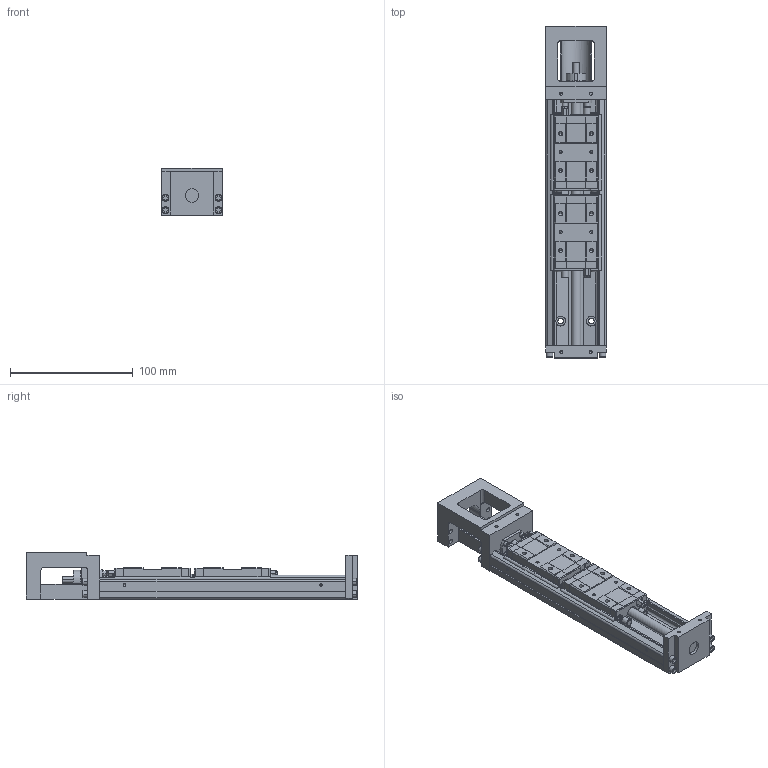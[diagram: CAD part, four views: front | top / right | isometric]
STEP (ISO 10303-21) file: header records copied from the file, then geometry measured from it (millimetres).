
FILE_DESCRIPTION(('no description'),'unknown implementation level');
FILE_NAME('KK5002P200A2F0000_FILE_20.stp',' ',('HIWIN GmbH'),('CADClick - KiM GmbH - www.kimweb.de'),'unknown preprocess','ACIS','unknown authorization');
FILE_SCHEMA(('automotive_design'));
Length unit declared in the file: millimetre
Products named in the file (3): KK5002P200A2F0000_FILE_1; KK50_FILE; KK5002P200A2F0000_FILE
Bounding box: 50 x 270 x 38.5 mm (x, y, z)
Volume: 243078.1 mm3; surface area: 81651.7 mm2
Topology: 3 solids, 15 shells, 951 faces, 2456 edges, 1549 vertices
Faces by surface type: plane 568, cylinder 253, cone 78, torus 52
Entity records: 56943 total; most frequent: CARTESIAN_POINT 5875, DIRECTION 5024, STYLED_ITEM 4913, PRESENTATION_STYLE_ASSIGNMENT 4913, COLOUR_RGB 4913, ORIENTED_EDGE 4820, EDGE_CURVE 2410, CURVE_STYLE 2410
